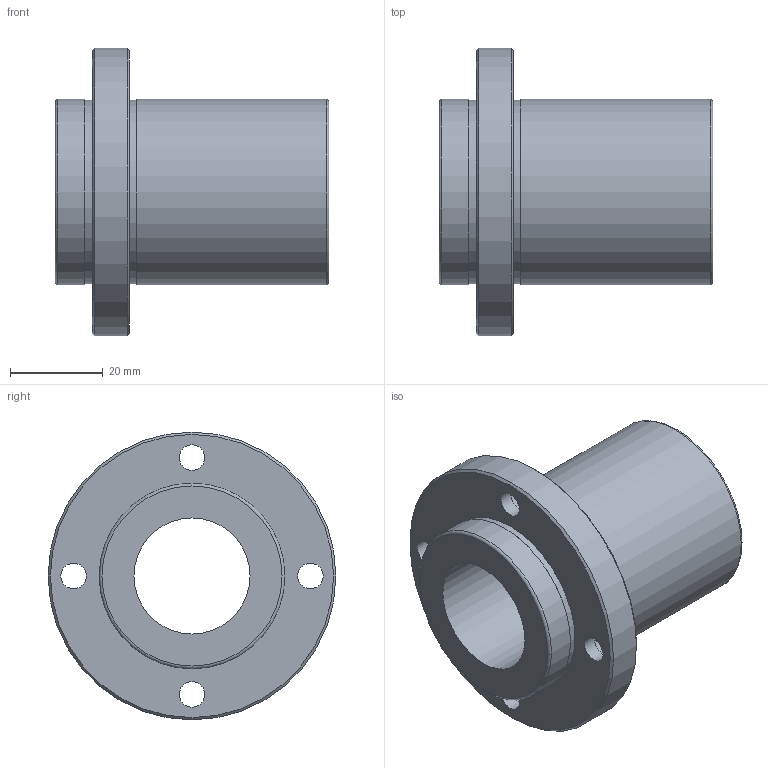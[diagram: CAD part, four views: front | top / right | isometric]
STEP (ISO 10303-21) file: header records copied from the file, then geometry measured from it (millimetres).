
FILE_DESCRIPTION(('STEP AP203'),'1');
FILE_NAME('//192.168.1.1/share/s-4 技術開発/s-4-4_CAD/s-4-4-3_見直し済み/002 修正済み/NFID-V/NFID-V_TOP/NFID-25VUU.step','2022-03-08T02:18:38',(' '),(' '),'Spatial InterOp 3D',' ',' ');
FILE_SCHEMA(('CONFIG_CONTROL_DESIGN'));
Length unit declared in the file: millimetre
Products named in the file (1): 1
Bounding box: 59 x 62 x 62 mm (x, y, z)
Volume: 57538.5 mm3; surface area: 18184.5 mm2
Topology: 1 solids, 1 shells, 28 faces, 56 edges, 38 vertices
Faces by surface type: cylinder 14, plane 10, torus 2, cone 2
Full cylindrical faces by diameter (mm): 5.5 x4, 9 x4, 25 x1, 39.5 x2, 40 x2, 62 x1
Entity records: 668 total; most frequent: DIRECTION 122, CARTESIAN_POINT 93, EDGE_LOOP 64, ORIENTED_EDGE 64, AXIS2_PLACEMENT_3D 61, FACE_OUTER_BOUND 44, EDGE_CURVE 32, VERTEX_POINT 32
